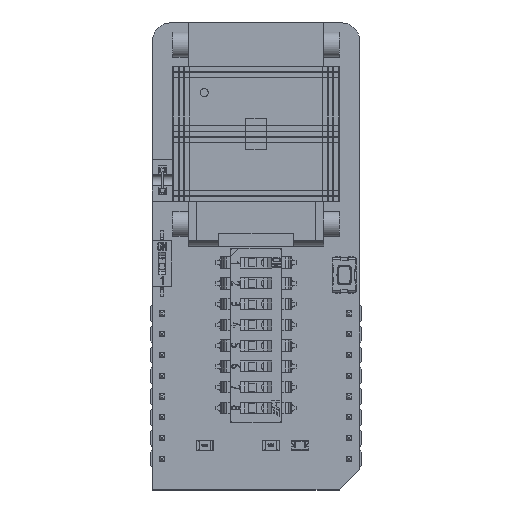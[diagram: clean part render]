
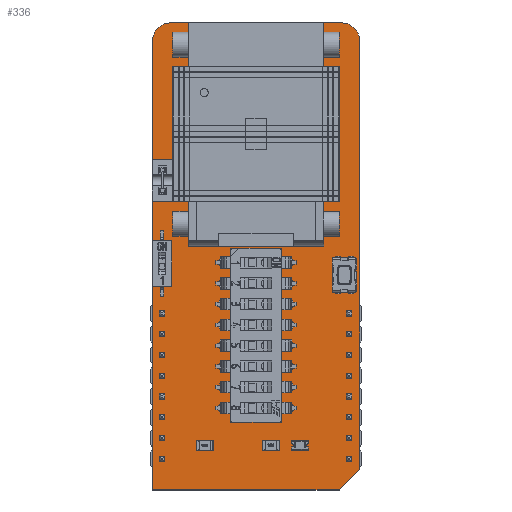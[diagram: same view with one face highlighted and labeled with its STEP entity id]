
A CAD part, top view. The second image highlights one B-rep face of the part: STEP entity #336.
In plain terms, the highlighted planar face has unit normal (0, 0, 1).
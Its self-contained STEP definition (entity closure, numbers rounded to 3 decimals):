
#107 = VERTEX_POINT('',#108);
#108 = CARTESIAN_POINT('',(-1.27,-3.81,0.));
#114 = EDGE_CURVE('',#107,#115,#117,.T.);
#115 = VERTEX_POINT('',#116);
#116 = CARTESIAN_POINT('',(-1.27,51.054,0.));
#117 = LINE('',#118,#119);
#118 = CARTESIAN_POINT('',(-1.27,-3.81,0.));
#119 = VECTOR('',#120,1.);
#120 = DIRECTION('',(0.,1.,0.));
#145 = EDGE_CURVE('',#115,#146,#148,.T.);
#146 = VERTEX_POINT('',#147);
#147 = CARTESIAN_POINT('',(1.016,53.34,0.));
#148 = CIRCLE('',#149,2.288);
#149 = AXIS2_PLACEMENT_3D('',#150,#151,#152);
#150 = CARTESIAN_POINT('',(1.018,51.052,0.));
#151 = DIRECTION('',(0.,0.,-1.));
#152 = DIRECTION('',(-1.,0.001,0.));
#178 = EDGE_CURVE('',#146,#179,#181,.T.);
#179 = VERTEX_POINT('',#180);
#180 = CARTESIAN_POINT('',(21.844,53.34,0.));
#181 = LINE('',#182,#183);
#182 = CARTESIAN_POINT('',(1.016,53.34,0.));
#183 = VECTOR('',#184,1.);
#184 = DIRECTION('',(1.,0.,0.));
#209 = EDGE_CURVE('',#179,#210,#212,.T.);
#210 = VERTEX_POINT('',#211);
#211 = CARTESIAN_POINT('',(24.13,51.054,0.));
#212 = CIRCLE('',#213,2.288);
#213 = AXIS2_PLACEMENT_3D('',#214,#215,#216);
#214 = CARTESIAN_POINT('',(21.842,51.052,0.));
#215 = DIRECTION('',(0.,0.,-1.));
#216 = DIRECTION('',(0.001,1.,0.));
#242 = EDGE_CURVE('',#210,#243,#245,.T.);
#243 = VERTEX_POINT('',#244);
#244 = CARTESIAN_POINT('',(24.13,-1.27,0.));
#245 = LINE('',#246,#247);
#246 = CARTESIAN_POINT('',(24.13,51.054,0.));
#247 = VECTOR('',#248,1.);
#248 = DIRECTION('',(0.,-1.,0.));
#273 = EDGE_CURVE('',#243,#274,#276,.T.);
#274 = VERTEX_POINT('',#275);
#275 = CARTESIAN_POINT('',(21.59,-3.81,0.));
#276 = LINE('',#277,#278);
#277 = CARTESIAN_POINT('',(24.13,-1.27,0.));
#278 = VECTOR('',#279,1.);
#279 = DIRECTION('',(-0.707,-0.707,0.));
#304 = EDGE_CURVE('',#274,#107,#305,.T.);
#305 = LINE('',#306,#307);
#306 = CARTESIAN_POINT('',(21.59,-3.81,0.));
#307 = VECTOR('',#308,1.);
#308 = DIRECTION('',(-1.,0.,0.));
#336 = ADVANCED_FACE('',(#337),#346,.T.);
#337 = FACE_BOUND('',#338,.F.);
#338 = EDGE_LOOP('',(#339,#340,#341,#342,#343,#344,#345));
#339 = ORIENTED_EDGE('',*,*,#114,.T.);
#340 = ORIENTED_EDGE('',*,*,#145,.T.);
#341 = ORIENTED_EDGE('',*,*,#178,.T.);
#342 = ORIENTED_EDGE('',*,*,#209,.T.);
#343 = ORIENTED_EDGE('',*,*,#242,.T.);
#344 = ORIENTED_EDGE('',*,*,#273,.T.);
#345 = ORIENTED_EDGE('',*,*,#304,.T.);
#346 = PLANE('',#347);
#347 = AXIS2_PLACEMENT_3D('',#348,#349,#350);
#348 = CARTESIAN_POINT('',(-1.27,-3.81,0.));
#349 = DIRECTION('',(0.,0.,1.));
#350 = DIRECTION('',(1.,0.,0.));
